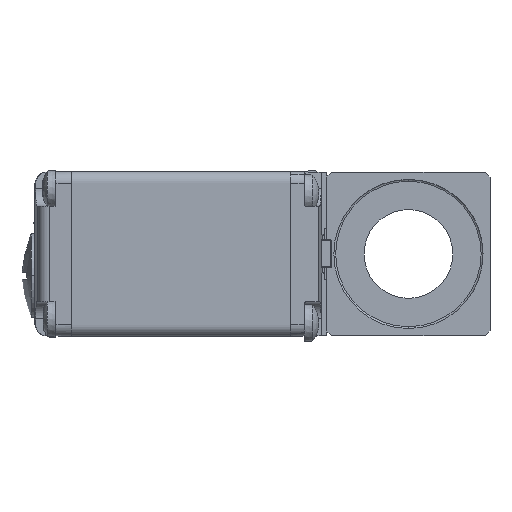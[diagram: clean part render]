
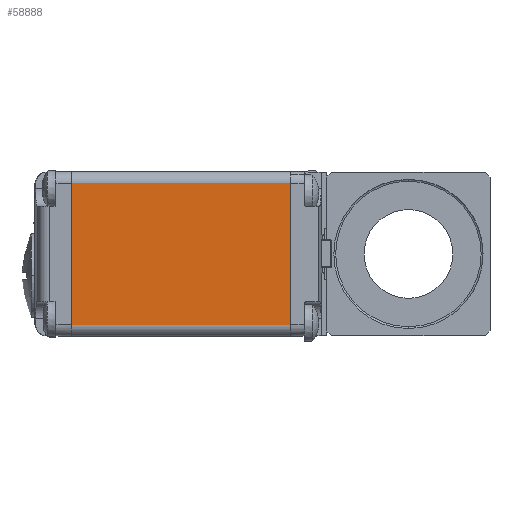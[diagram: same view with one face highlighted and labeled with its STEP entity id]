
A CAD part, left-side view. The second image highlights one B-rep face of the part: STEP entity #58888.
In plain terms, the highlighted planar face has unit normal (-1, 0, 0).
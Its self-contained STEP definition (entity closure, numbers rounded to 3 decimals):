
#1509 = LINE ( 'NONE', #55667, #1511 ) ;
#1511 = VECTOR ( 'NONE', #55669, 1000. ) ;
#2929 = LINE ( 'NONE', #79315, #2943 ) ;
#2943 = VECTOR ( 'NONE', #79294, 1000. ) ;
#5777 = AXIS2_PLACEMENT_3D ( 'NONE', #62384, #62385, #62386 ) ;
#12576 = DIRECTION ( 'NONE',  ( 0., 0., -1. ) ) ;
#12578 = CARTESIAN_POINT ( 'NONE',  ( -62., 72.3, 0. ) ) ;
#12670 = CARTESIAN_POINT ( 'NONE',  ( -62., 25.3, 0. ) ) ;
#12671 = DIRECTION ( 'NONE',  ( 0., 0., -1. ) ) ;
#16438 = VERTEX_POINT ( 'NONE', #58425 ) ;
#16442 = VERTEX_POINT ( 'NONE', #58429 ) ;
#17182 = VERTEX_POINT ( 'NONE', #59022 ) ;
#17404 = VERTEX_POINT ( 'NONE', #59201 ) ;
#25309 = ORIENTED_EDGE ( 'NONE', *, *, #60934, .T. ) ;
#25311 = ORIENTED_EDGE ( 'NONE', *, *, #60477, .T. ) ;
#25312 = ORIENTED_EDGE ( 'NONE', *, *, #61258, .F. ) ;
#25314 = ORIENTED_EDGE ( 'NONE', *, *, #60511, .F. ) ;
#34461 = EDGE_LOOP ( 'NONE', ( #25314, #25312, #25311, #25309 ) ) ;
#55667 = CARTESIAN_POINT ( 'NONE',  ( -62., 72.3, -15.15 ) ) ;
#55669 = DIRECTION ( 'NONE',  ( 0., -1., 0. ) ) ;
#58425 = CARTESIAN_POINT ( 'NONE',  ( -62., 72.3, -15.15 ) ) ;
#58429 = CARTESIAN_POINT ( 'NONE',  ( -62., 25.3, 15.15 ) ) ;
#58888 = ADVANCED_FACE ( 'NONE', ( #64161 ), #62376, .F. ) ;
#59022 = CARTESIAN_POINT ( 'NONE',  ( -62., 72.3, 15.15 ) ) ;
#59201 = CARTESIAN_POINT ( 'NONE',  ( -62., 25.3, -15.15 ) ) ;
#60477 = EDGE_CURVE ( 'NONE', #17182, #16438, #65078, .T. ) ;
#60511 = EDGE_CURVE ( 'NONE', #16442, #17404, #65158, .T. ) ;
#60934 = EDGE_CURVE ( 'NONE', #16438, #17404, #1509, .T. ) ;
#61258 = EDGE_CURVE ( 'NONE', #17182, #16442, #2929, .T. ) ;
#62376 = PLANE ( 'NONE',  #5777 ) ;
#62384 = CARTESIAN_POINT ( 'NONE',  ( -62., 72.3, 0. ) ) ;
#62385 = DIRECTION ( 'NONE',  ( 1., 0., 0. ) ) ;
#62386 = DIRECTION ( 'NONE',  ( 0., 0., 1. ) ) ;
#64161 = FACE_OUTER_BOUND ( 'NONE', #34461, .T. ) ;
#65078 = LINE ( 'NONE', #12578, #65087 ) ;
#65087 = VECTOR ( 'NONE', #12576, 1000. ) ;
#65158 = LINE ( 'NONE', #12670, #65161 ) ;
#65161 = VECTOR ( 'NONE', #12671, 1000. ) ;
#79294 = DIRECTION ( 'NONE',  ( 0., -1., 0. ) ) ;
#79315 = CARTESIAN_POINT ( 'NONE',  ( -62., 72.3, 15.15 ) ) ;
